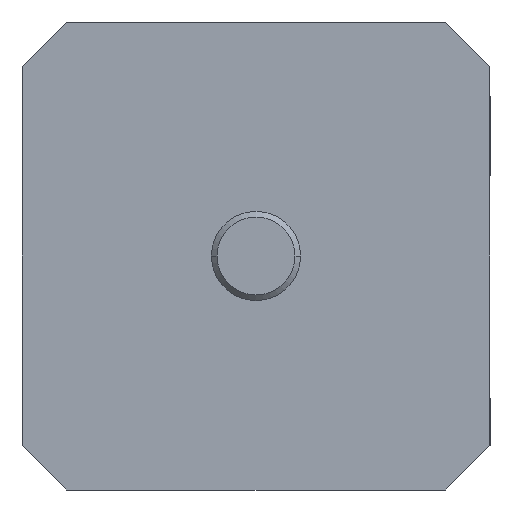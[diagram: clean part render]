
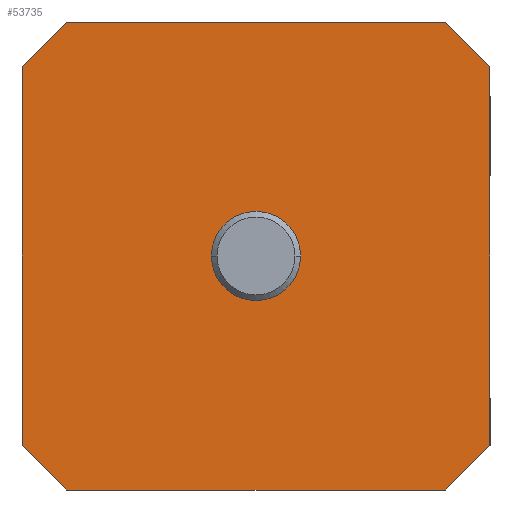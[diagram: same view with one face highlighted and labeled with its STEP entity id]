
A CAD part, front view. The second image highlights one B-rep face of the part: STEP entity #53735.
In plain terms, the highlighted planar face has unit normal (0, -1, 0) as drawn and (0, 0, 1) by its records, which use the part's own axes.
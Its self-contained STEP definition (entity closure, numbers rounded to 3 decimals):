
#553 = DIRECTION ( 'NONE',  ( -1., 0., 0. ) ) ;
#1192 = VECTOR ( 'NONE', #36152, 1000. ) ;
#2245 = EDGE_CURVE ( 'NONE', #112026, #72069, #40835, .T. ) ;
#5961 = DIRECTION ( 'NONE',  ( -1., 0., 0. ) ) ;
#7550 = ORIENTED_EDGE ( 'NONE', *, *, #93277, .F. ) ;
#10349 = CARTESIAN_POINT ( 'NONE',  ( 17., -21., 9.5 ) ) ;
#10565 = EDGE_CURVE ( 'NONE', #68860, #117200, #38065, .T. ) ;
#12628 = CARTESIAN_POINT ( 'NONE',  ( 17., 21., 9.5 ) ) ;
#14298 = EDGE_CURVE ( 'NONE', #43828, #57784, #57874, .T. ) ;
#16581 = ORIENTED_EDGE ( 'NONE', *, *, #10565, .F. ) ;
#16606 = ORIENTED_EDGE ( 'NONE', *, *, #2245, .F. ) ;
#17608 = VERTEX_POINT ( 'NONE', #98443 ) ;
#18025 = EDGE_CURVE ( 'NONE', #67357, #68860, #78421, .T. ) ;
#23103 = CIRCLE ( 'NONE', #117583, 4. ) ;
#26114 = LINE ( 'NONE', #112736, #97265 ) ;
#27638 = VERTEX_POINT ( 'NONE', #12628 ) ;
#28052 = CARTESIAN_POINT ( 'NONE',  ( 21., 17., 9.5 ) ) ;
#29384 = CARTESIAN_POINT ( 'NONE',  ( -21., 17., 9.5 ) ) ;
#29828 = CARTESIAN_POINT ( 'NONE',  ( -21., -17., 9.5 ) ) ;
#31793 = EDGE_LOOP ( 'NONE', ( #78068, #87464, #16581, #124939, #63083, #46662, #65013, #16606 ) ) ;
#32910 = DIRECTION ( 'NONE',  ( 0.707, -0.707, 0. ) ) ;
#34256 = CARTESIAN_POINT ( 'NONE',  ( 21., -17., 9.5 ) ) ;
#34752 = PLANE ( 'NONE',  #91835 ) ;
#35535 = FACE_OUTER_BOUND ( 'NONE', #31793, .T. ) ;
#36152 = DIRECTION ( 'NONE',  ( 0., -1., 0. ) ) ;
#38065 = LINE ( 'NONE', #34256, #63731 ) ;
#38115 = LINE ( 'NONE', #29384, #60792 ) ;
#40120 = AXIS2_PLACEMENT_3D ( 'NONE', #121855, #63909, #5961 ) ;
#40835 = LINE ( 'NONE', #66864, #111888 ) ;
#41492 = EDGE_CURVE ( 'NONE', #27638, #67357, #66741, .T. ) ;
#43828 = VERTEX_POINT ( 'NONE', #75997 ) ;
#44448 = DIRECTION ( 'NONE',  ( 0., 0., -1. ) ) ;
#45490 = DIRECTION ( 'NONE',  ( 1., 0., 0. ) ) ;
#46662 = ORIENTED_EDGE ( 'NONE', *, *, #79338, .F. ) ;
#47263 = CARTESIAN_POINT ( 'NONE',  ( 17., -21., 9.5 ) ) ;
#47348 = CARTESIAN_POINT ( 'NONE',  ( 21., -17., 9.5 ) ) ;
#51026 = EDGE_CURVE ( 'NONE', #117200, #111271, #85778, .T. ) ;
#52608 = LINE ( 'NONE', #67615, #101024 ) ;
#52914 = CARTESIAN_POINT ( 'NONE',  ( 0., 0., 9.5 ) ) ;
#53735 = ADVANCED_FACE ( 'NONE', ( #112682, #35535 ), #34752, .F. ) ;
#54857 = CARTESIAN_POINT ( 'NONE',  ( -21., 17., 9.5 ) ) ;
#57784 = VERTEX_POINT ( 'NONE', #63760 ) ;
#57874 = CIRCLE ( 'NONE', #40120, 4. ) ;
#60792 = VECTOR ( 'NONE', #106730, 1000. ) ;
#62583 = DIRECTION ( 'NONE',  ( -1., 0., 0. ) ) ;
#63083 = ORIENTED_EDGE ( 'NONE', *, *, #41492, .F. ) ;
#63731 = VECTOR ( 'NONE', #111642, 1000. ) ;
#63760 = CARTESIAN_POINT ( 'NONE',  ( -4., 0., 9.5 ) ) ;
#63909 = DIRECTION ( 'NONE',  ( 0., 0., 1. ) ) ;
#65013 = ORIENTED_EDGE ( 'NONE', *, *, #69866, .F. ) ;
#65284 = CARTESIAN_POINT ( 'NONE',  ( 21., 17., 9.5 ) ) ;
#66741 = LINE ( 'NONE', #81081, #115179 ) ;
#66864 = CARTESIAN_POINT ( 'NONE',  ( -21., -17., 9.5 ) ) ;
#67357 = VERTEX_POINT ( 'NONE', #28052 ) ;
#67615 = CARTESIAN_POINT ( 'NONE',  ( -17., -21., 9.5 ) ) ;
#68860 = VERTEX_POINT ( 'NONE', #47348 ) ;
#69866 = EDGE_CURVE ( 'NONE', #72069, #17608, #38115, .T. ) ;
#72069 = VERTEX_POINT ( 'NONE', #54857 ) ;
#75997 = CARTESIAN_POINT ( 'NONE',  ( 4., 0., 9.5 ) ) ;
#76024 = CARTESIAN_POINT ( 'NONE',  ( -17., -21., 9.5 ) ) ;
#78068 = ORIENTED_EDGE ( 'NONE', *, *, #112824, .F. ) ;
#78421 = LINE ( 'NONE', #65284, #1192 ) ;
#79338 = EDGE_CURVE ( 'NONE', #17608, #27638, #26114, .T. ) ;
#81081 = CARTESIAN_POINT ( 'NONE',  ( 17., 21., 9.5 ) ) ;
#82691 = VECTOR ( 'NONE', #553, 1000. ) ;
#82950 = CARTESIAN_POINT ( 'NONE',  ( 0., 0., 9.5 ) ) ;
#84862 = EDGE_LOOP ( 'NONE', ( #7550, #106014 ) ) ;
#85778 = LINE ( 'NONE', #10349, #82691 ) ;
#87464 = ORIENTED_EDGE ( 'NONE', *, *, #51026, .F. ) ;
#91835 = AXIS2_PLACEMENT_3D ( 'NONE', #82950, #44448, #112116 ) ;
#93277 = EDGE_CURVE ( 'NONE', #57784, #43828, #23103, .T. ) ;
#97265 = VECTOR ( 'NONE', #45490, 1000. ) ;
#98443 = CARTESIAN_POINT ( 'NONE',  ( -17., 21., 9.5 ) ) ;
#101024 = VECTOR ( 'NONE', #115845, 1000. ) ;
#106014 = ORIENTED_EDGE ( 'NONE', *, *, #14298, .F. ) ;
#106730 = DIRECTION ( 'NONE',  ( 0.707, 0.707, 0. ) ) ;
#109101 = DIRECTION ( 'NONE',  ( 0., 1., 0. ) ) ;
#111271 = VERTEX_POINT ( 'NONE', #76024 ) ;
#111642 = DIRECTION ( 'NONE',  ( -0.707, -0.707, 0. ) ) ;
#111888 = VECTOR ( 'NONE', #109101, 1000. ) ;
#112026 = VERTEX_POINT ( 'NONE', #29828 ) ;
#112116 = DIRECTION ( 'NONE',  ( -1., 0., 0. ) ) ;
#112682 = FACE_BOUND ( 'NONE', #84862, .T. ) ;
#112736 = CARTESIAN_POINT ( 'NONE',  ( -17., 21., 9.5 ) ) ;
#112824 = EDGE_CURVE ( 'NONE', #111271, #112026, #52608, .T. ) ;
#115179 = VECTOR ( 'NONE', #32910, 1000. ) ;
#115845 = DIRECTION ( 'NONE',  ( -0.707, 0.707, 0. ) ) ;
#117200 = VERTEX_POINT ( 'NONE', #47263 ) ;
#117583 = AXIS2_PLACEMENT_3D ( 'NONE', #52914, #120559, #62583 ) ;
#120559 = DIRECTION ( 'NONE',  ( 0., 0., 1. ) ) ;
#121855 = CARTESIAN_POINT ( 'NONE',  ( 0., 0., 9.5 ) ) ;
#124939 = ORIENTED_EDGE ( 'NONE', *, *, #18025, .F. ) ;
